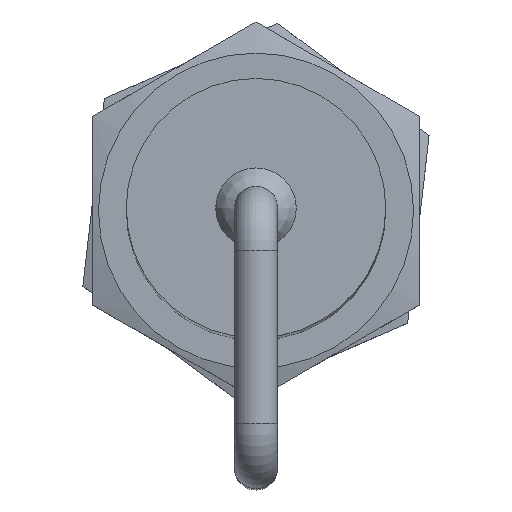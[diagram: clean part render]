
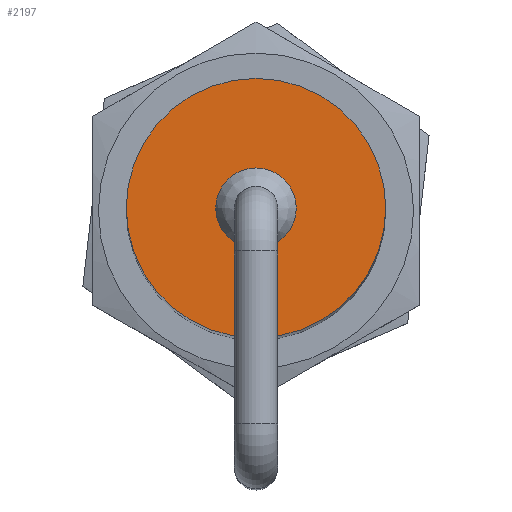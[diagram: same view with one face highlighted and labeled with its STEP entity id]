
A CAD part, top view. The second image highlights one B-rep face of the part: STEP entity #2197.
In plain terms, the highlighted planar face has unit normal (0, 0, 1).
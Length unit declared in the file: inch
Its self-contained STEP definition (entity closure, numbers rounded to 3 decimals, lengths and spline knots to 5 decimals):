
#220=FACE_BOUND('',#508,.T.);
#256=PLANE('',#2537);
#371=FACE_OUTER_BOUND('',#507,.T.);
#507=EDGE_LOOP('',(#1821));
#508=EDGE_LOOP('',(#1822));
#774=CIRCLE('',#2523,0.11628);
#779=CIRCLE('',#2536,0.375);
#955=VERTEX_POINT('',#5696);
#979=VERTEX_POINT('',#12222);
#1222=EDGE_CURVE('',#955,#955,#774,.T.);
#1265=EDGE_CURVE('',#979,#979,#779,.T.);
#1821=ORIENTED_EDGE('',*,*,#1265,.T.);
#1822=ORIENTED_EDGE('',*,*,#1222,.T.);
#2197=ADVANCED_FACE('',(#371,#220),#256,.T.);
#2523=AXIS2_PLACEMENT_3D('',#5698,#2903,#2904);
#2536=AXIS2_PLACEMENT_3D('',#12223,#2938,#2939);
#2537=AXIS2_PLACEMENT_3D('',#12225,#2941,#2942);
#2903=DIRECTION('center_axis',(0.,0.,
-1.));
#2904=DIRECTION('ref_axis',(1.,0.,0.));
#2938=DIRECTION('center_axis',(0.,0.,1.));
#2939=DIRECTION('ref_axis',(1.,0.,0.));
#2941=DIRECTION('center_axis',(0.,0.,1.));
#2942=DIRECTION('ref_axis',(1.,0.,0.));
#5696=CARTESIAN_POINT('',(-0.11628,0.,5.08));
#5698=CARTESIAN_POINT('Origin',(0.,0.,
5.08));
#12222=CARTESIAN_POINT('',(-0.375,0.,5.08));
#12223=CARTESIAN_POINT('Origin',(0.,0.,5.08));
#12225=CARTESIAN_POINT('Origin',(0.,0.,5.08));
